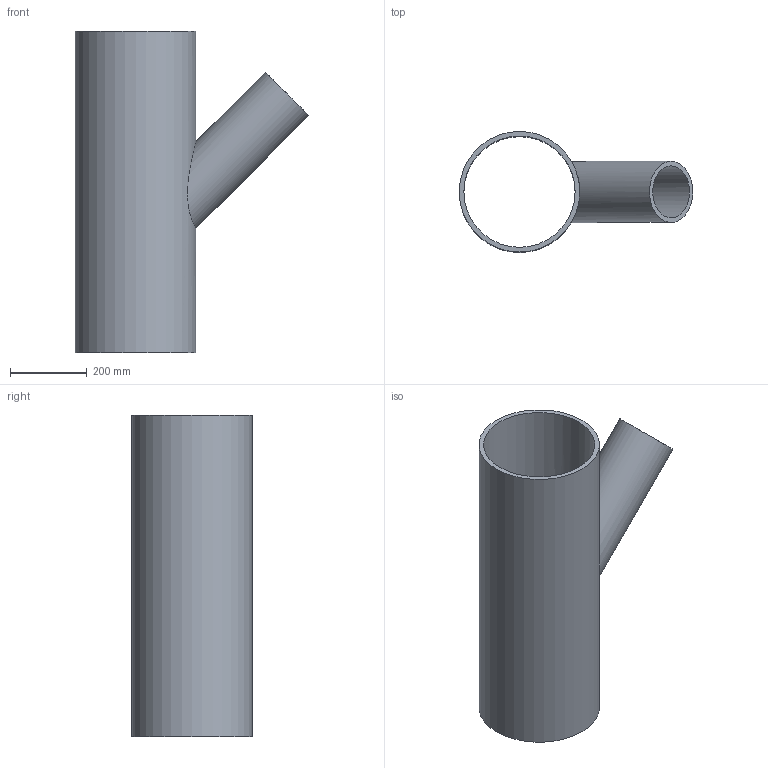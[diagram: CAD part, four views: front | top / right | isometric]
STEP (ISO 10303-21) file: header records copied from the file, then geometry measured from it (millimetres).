
FILE_DESCRIPTION(/* description */ (''),/* implementation_level */ '2;1');
FILE_NAME(/* name */ 'C:\Planerdaten\Export PLA\PRO_101557\stp\372145.stp',/* time_stamp */ '2021-09-30T15:10:03+02:00',/* author */ ('JANAN'),/* organization */ (''),/* preprocessor_version */ 'ST-DEVELOPER v16.13',/* originating_system */ 'Autodesk Inventor 2018',/* authorisation */ '');
FILE_SCHEMA (('AUTOMOTIVE_DESIGN { 1 0 10303 214 3 1 1 }'));
Length unit declared in the file: millimetre
Products named in the file (1): tmpF0.tmp
Bounding box: 610.05 x 315 x 840 mm (x, y, z)
Volume: 11477477.1 mm3; surface area: 1909662.3 mm2
Topology: 1 solids, 1 shells, 7 faces, 17 edges, 12 vertices
Faces by surface type: cylinder 4, plane 3
Full cylindrical faces by diameter (mm): 135.6 x1, 160 x1, 290.6 x1, 315 x1
Entity records: 344 total; most frequent: CARTESIAN_POINT 166, DIRECTION 28, EDGE_LOOP 16, ORIENTED_EDGE 16, AXIS2_PLACEMENT_3D 14, FACE_BOUND 9, VERTEX_POINT 8, EDGE_CURVE 8
